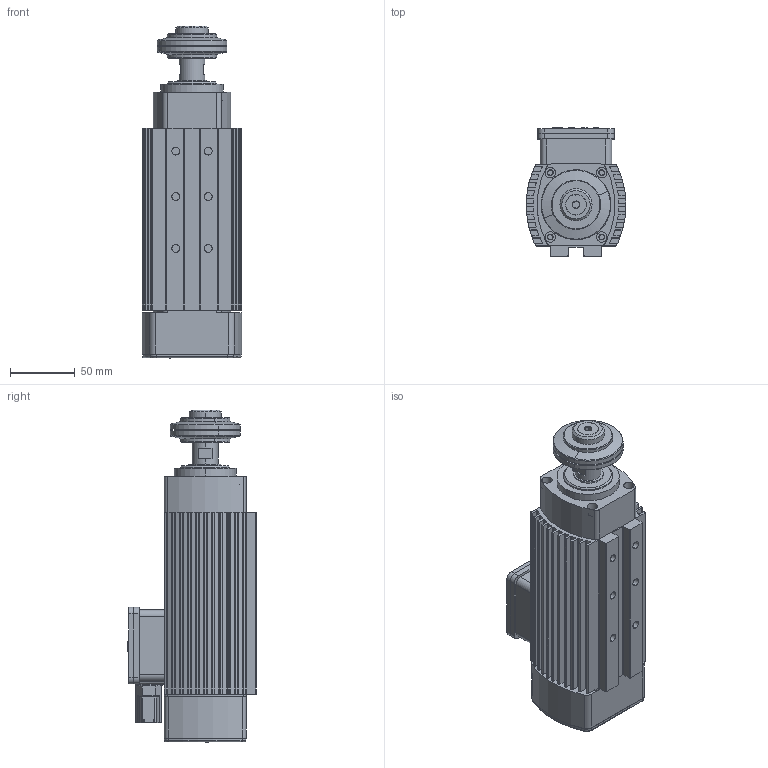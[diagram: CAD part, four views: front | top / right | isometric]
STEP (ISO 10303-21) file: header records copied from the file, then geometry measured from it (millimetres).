
FILE_DESCRIPTION (( 'STEP AP203' ), '1' );
FILE_NAME ('ARFM.1Y-M Flansli.STEP', '2022-04-04T11:21:27', ( '' ), ( '' ), 'SwSTEP 2.0', 'SolidWorks 2014', '' );
FILE_SCHEMA (( 'CONFIG_CONTROL_DESIGN' ));
Length unit declared in the file: millimetre
Products named in the file (14): M8x20 inpus havsa; arfm.1y 霵 toz kapak; arfm.1y klemens kutusu; arfm.1y Caký Pulu; arfm.1y hava kapak; ARFM.1Y-M Flansli; arfm.1y gövde; arfm.1y rotor mili 16x19; arfm.1y klemens kutusu kapaðý; 471-20 Sekman; arfm.1y 霵 kapak; arfm.1y arka kapak; 1Y Testere Flans; pg 9 týrnaklý
Assembly tree (13 placements, depth 2):
  ARFM.1Y-M Flansli
    arfm.1y gövde
    arfm.1y arka kapak
    arfm.1y klemens kutusu
    arfm.1y klemens kutusu kapaðý
    pg 9 týrnaklý
    arfm.1y hava kapak
    arfm.1y 霵 kapak
    arfm.1y 霵 toz kapak
    arfm.1y rotor mili 16x19
    1Y Testere Flans
    arfm.1y Caký Pulu
    471-20 Sekman
    M8x20 inpus havsa
Bounding box: 77 x 99.3 x 256 mm (x, y, z)
Volume: 1013230.9 mm3; surface area: 170957.2 mm2
Topology: 13 solids, 13 shells, 764 faces, 2008 edges, 1318 vertices
Faces by surface type: cylinder 399, plane 297, cone 39, torus 16, bspline 13
Entity records: 27535 total; most frequent: CARTESIAN_POINT 6782, DIRECTION 4145, ORIENTED_EDGE 4012, EDGE_CURVE 2006, AXIS2_PLACEMENT_3D 1532, VERTEX_POINT 1318, LINE 1081, VECTOR 1081
